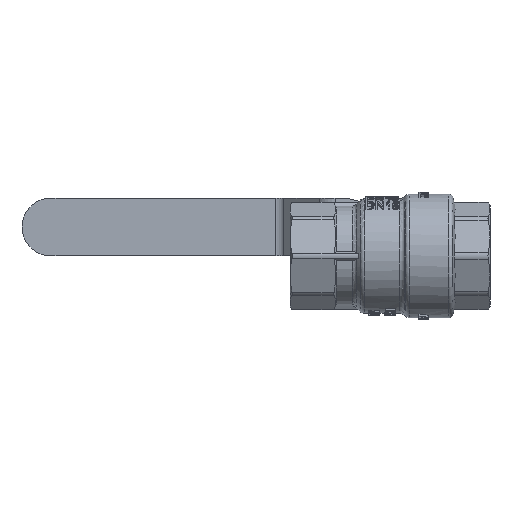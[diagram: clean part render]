
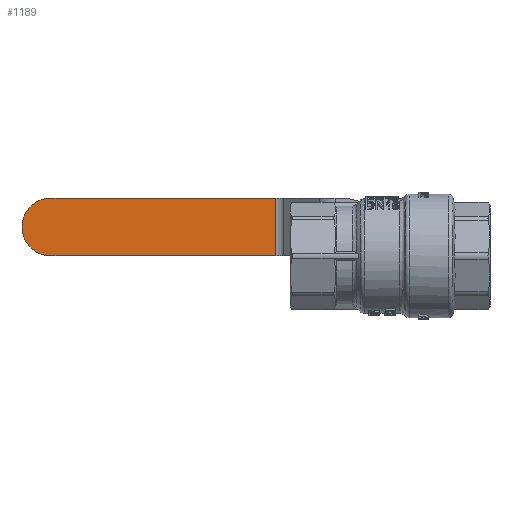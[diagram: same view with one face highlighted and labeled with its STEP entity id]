
A CAD part, front view. The second image highlights one B-rep face of the part: STEP entity #1189.
In plain terms, the highlighted planar face has unit normal (0, -1, 0).
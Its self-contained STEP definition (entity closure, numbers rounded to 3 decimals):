
#1189=ADVANCED_FACE('',(#9688),#9690,.F.);
#9688=FACE_BOUND('',#9689,.T.);
#9689=EDGE_LOOP('',(#18672,#18673,#18674,#18675));
#9690=PLANE('',#9691);
#9691=AXIS2_PLACEMENT_3D('',#9692,#9693,#9694);
#9692=CARTESIAN_POINT('',(3.975,39.727,0.));
#9693=DIRECTION('',(0.,1.,0.));
#9694=DIRECTION('',(-1.,0.,0.));
#18672=ORIENTED_EDGE('',*,*,#23722,.F.);
#18673=ORIENTED_EDGE('',*,*,#23679,.F.);
#18674=ORIENTED_EDGE('',*,*,#23723,.F.);
#18675=ORIENTED_EDGE('',*,*,#23724,.F.);
#23679=EDGE_CURVE('',#30184,#30185,#30186,.T.);
#23722=EDGE_CURVE('',#30185,#30245,#30246,.T.);
#23723=EDGE_CURVE('',#30247,#30184,#30248,.T.);
#23724=EDGE_CURVE('',#30245,#30247,#30249,.F.);
#30184=VERTEX_POINT('',#49173);
#30185=VERTEX_POINT('',#49174);
#30186=LINE('',#49175,#49176);
#30245=VERTEX_POINT('',#49595);
#30246=LINE('',#49596,#49597);
#30247=VERTEX_POINT('',#49599);
#30248=LINE('',#49600,#49601);
#30249=CIRCLE('',#49603,7.25);
#49173=CARTESIAN_POINT('',(-28.698,39.727,14.5));
#49174=CARTESIAN_POINT('',(-28.698,39.727,0.));
#49175=CARTESIAN_POINT('',(-28.698,39.727,14.5));
#49176=VECTOR('',#49177,1.);
#49177=DIRECTION('',(0.,0.,-1.));
#49595=CARTESIAN_POINT('',(-84.768,39.727,0.));
#49596=CARTESIAN_POINT('',(-28.698,39.727,0.));
#49597=VECTOR('',#49598,1.);
#49598=DIRECTION('',(-1.,0.,0.));
#49599=CARTESIAN_POINT('',(-84.768,39.727,14.5));
#49600=CARTESIAN_POINT('',(-84.768,39.727,14.5));
#49601=VECTOR('',#49602,1.);
#49602=DIRECTION('',(1.,0.,0.));
#49603=AXIS2_PLACEMENT_3D('',#49604,#49605,#49606);
#49604=CARTESIAN_POINT('',(-84.768,39.727,7.25));
#49605=DIRECTION('',(0.,-1.,0.));
#49606=DIRECTION('',(0.,0.,1.));
